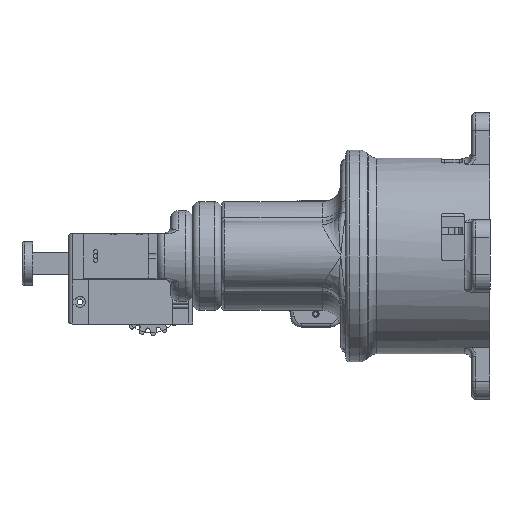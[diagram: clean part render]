
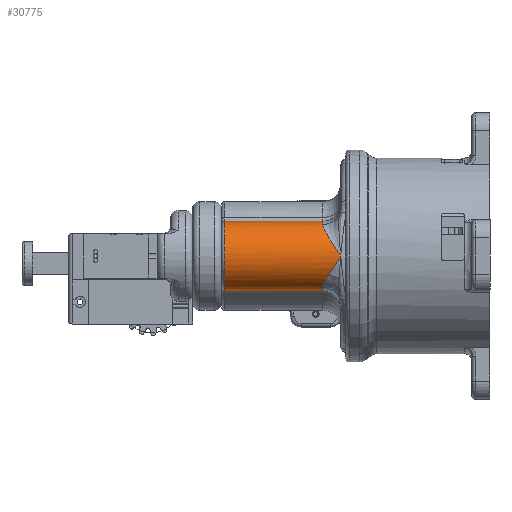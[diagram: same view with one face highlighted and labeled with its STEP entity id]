
A CAD part, front view. The second image highlights one B-rep face of the part: STEP entity #30775.
In plain terms, the highlighted cylindrical face has radius 9.569 mm (diameter 19.139 mm), a partial arc.
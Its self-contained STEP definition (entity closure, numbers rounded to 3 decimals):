
#7120=B_SPLINE_CURVE_WITH_KNOTS('',3,(#58973,#58974,#58975,#58976,#58977,
#58978,#58979,#58980),.UNSPECIFIED.,.F.,.F.,(4,2,1,1,4),(-5.411,
-5.408,-4.368,-4.021,-3.675),
 .UNSPECIFIED.);
#7121=B_SPLINE_CURVE_WITH_KNOTS('',3,(#58982,#58983,#58984,#58985,#58986,
#58987,#58988,#58989,#58990,#58991,#58992,#58993),.UNSPECIFIED.,.F.,.F.,
(4,1,1,1,1,1,1,2,4),(-1.734,-1.387,-1.214,
-1.04,-0.867,-0.694,-0.347,
0.,0.002),.UNSPECIFIED.);
#8690=FACE_OUTER_BOUND('',#10090,.T.);
#10090=EDGE_LOOP('',(#26611,#26612,#26613,#26614,#26615,#26616,#26617));
#11646=LINE('',#58969,#13762);
#11647=LINE('',#58996,#13763);
#13762=VECTOR('',#39284,10.);
#13763=VECTOR('',#39289,10.);
#15977=CIRCLE('',#33434,9.569);
#15983=CIRCLE('',#33443,9.569);
#15984=CIRCLE('',#33444,9.569);
#17831=VERTEX_POINT('',#58947);
#17833=VERTEX_POINT('',#58953);
#17837=VERTEX_POINT('',#58968);
#17838=VERTEX_POINT('',#58970);
#17839=VERTEX_POINT('',#58972);
#17840=VERTEX_POINT('',#58981);
#17841=VERTEX_POINT('',#58994);
#20920=EDGE_CURVE('',#17831,#17833,#15977,.T.);
#20926=EDGE_CURVE('',#17837,#17831,#11646,.T.);
#20927=EDGE_CURVE('',#17838,#17837,#15983,.T.);
#20928=EDGE_CURVE('',#17839,#17838,#7120,.T.);
#20929=EDGE_CURVE('',#17840,#17839,#7121,.T.);
#20930=EDGE_CURVE('',#17841,#17840,#15984,.T.);
#20931=EDGE_CURVE('',#17833,#17841,#11647,.T.);
#26611=ORIENTED_EDGE('',*,*,#20920,.F.);
#26612=ORIENTED_EDGE('',*,*,#20926,.F.);
#26613=ORIENTED_EDGE('',*,*,#20927,.F.);
#26614=ORIENTED_EDGE('',*,*,#20928,.F.);
#26615=ORIENTED_EDGE('',*,*,#20929,.F.);
#26616=ORIENTED_EDGE('',*,*,#20930,.F.);
#26617=ORIENTED_EDGE('',*,*,#20931,.F.);
#29872=CYLINDRICAL_SURFACE('',#33442,9.569);
#30775=ADVANCED_FACE('',(#8690),#29872,.T.);
#33434=AXIS2_PLACEMENT_3D('',#58957,#39266,#39267);
#33442=AXIS2_PLACEMENT_3D('',#58967,#39282,#39283);
#33443=AXIS2_PLACEMENT_3D('',#58971,#39285,#39286);
#33444=AXIS2_PLACEMENT_3D('',#58995,#39287,#39288);
#39266=DIRECTION('center_axis',(0.,-1.,0.));
#39267=DIRECTION('ref_axis',(1.,0.,0.));
#39282=DIRECTION('center_axis',(0.,-1.,0.));
#39283=DIRECTION('ref_axis',(1.,0.,0.));
#39284=DIRECTION('',(0.,-1.,0.));
#39285=DIRECTION('center_axis',(0.,1.,0.));
#39286=DIRECTION('ref_axis',(0.621,0.,-0.784));
#39287=DIRECTION('center_axis',(0.,1.,0.));
#39288=DIRECTION('ref_axis',(0.621,0.,0.784));
#39289=DIRECTION('',(0.,1.,0.));
#58947=CARTESIAN_POINT('',(15.243,-13.75,-9.316));
#58953=CARTESIAN_POINT('',(15.243,-13.75,9.316));
#58957=CARTESIAN_POINT('Origin',(17.431,-13.75,0.));
#58967=CARTESIAN_POINT('Origin',(17.431,18.25,0.));
#58968=CARTESIAN_POINT('',(15.243,13.25,-9.316));
#58969=CARTESIAN_POINT('',(15.243,18.25,-9.316));
#58970=CARTESIAN_POINT('',(21.442,13.25,-8.688));
#58971=CARTESIAN_POINT('Origin',(17.431,13.25,0.));
#58972=CARTESIAN_POINT('',(27.,18.25,0.));
#58973=CARTESIAN_POINT('Ctrl Pts',(27.,18.25,0.));
#58974=CARTESIAN_POINT('Ctrl Pts',(27.,18.247,-0.005));
#58975=CARTESIAN_POINT('Ctrl Pts',(27.,18.244,-0.01));
#58976=CARTESIAN_POINT('Ctrl Pts',(27.,16.87,-2.103));
#58977=CARTESIAN_POINT('Ctrl Pts',(26.064,14.993,-4.912));
#58978=CARTESIAN_POINT('Ctrl Pts',(23.439,13.518,-7.563));
#58979=CARTESIAN_POINT('Ctrl Pts',(22.131,13.25,-8.37));
#58980=CARTESIAN_POINT('Ctrl Pts',(21.442,13.25,-8.688));
#58981=CARTESIAN_POINT('',(21.442,13.25,8.688));
#58982=CARTESIAN_POINT('Ctrl Pts',(21.442,13.25,8.688));
#58983=CARTESIAN_POINT('Ctrl Pts',(22.131,13.25,8.37));
#58984=CARTESIAN_POINT('Ctrl Pts',(23.118,13.455,7.76));
#58985=CARTESIAN_POINT('Ctrl Pts',(24.224,13.96,6.77));
#58986=CARTESIAN_POINT('Ctrl Pts',(24.959,14.433,5.942));
#58987=CARTESIAN_POINT('Ctrl Pts',(25.586,14.979,5.044));
#58988=CARTESIAN_POINT('Ctrl Pts',(26.27,15.773,3.786));
#58989=CARTESIAN_POINT('Ctrl Pts',(26.844,16.862,2.109));
#58990=CARTESIAN_POINT('Ctrl Pts',(26.999,17.782,0.711));
#58991=CARTESIAN_POINT('Ctrl Pts',(27.,18.244,0.01));
#58992=CARTESIAN_POINT('Ctrl Pts',(27.,18.247,0.005));
#58993=CARTESIAN_POINT('Ctrl Pts',(27.,18.25,0.));
#58994=CARTESIAN_POINT('',(15.243,13.25,9.316));
#58995=CARTESIAN_POINT('Origin',(17.431,13.25,0.));
#58996=CARTESIAN_POINT('',(15.243,18.25,9.316));
